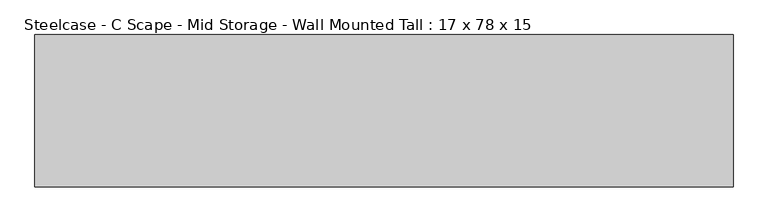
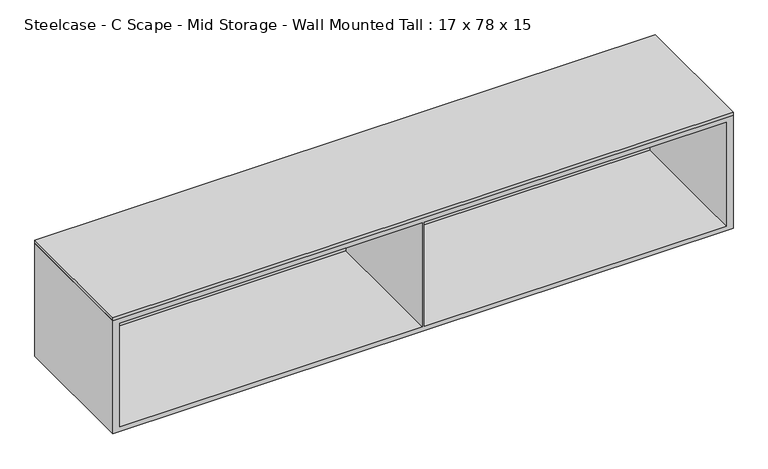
"""IFC4 building model written with IfcOpenShell, lengths in millimetres: furniture geometry, Steelcase - C Scape - Mid Storage - Wall Mounted Tall : 17 x 78 x 15."""

from ifc_helpers import new_model, si_unit, frame, origin, place, context, project, spatial, polyline, outline, extrude, faceted_brep, source, transform, mapped, element, save


def steelcase_c_scape_mid_storage_wall_mounted_tall_17_x_78_x_15_f820720b(model_context):
    return source(origin(), model_context, "Body", "SolidModel", [
        extrude(outline(polyline([(1981.2, 215.9), (1981.2, -215.9), (0.0, -215.9), (0.0, 215.9), (1981.2, 215.9)])), frame((0.0, 0.0, 1219.2), z_axis=(0.0, 0.0, 1.0), x_axis=(1.0, 0.0, 0.0)), (0.0, 0.0, 1.0), 10.16),
        faceted_brep([(0.0, -215.9, 1219.2), (0.0, -215.9, 838.2), (1981.2, -215.9, 838.2), (1981.2, -215.9, 1219.2), (21.9711633, -215.9, 1203.96), (987.425, -215.9, 1203.96), (987.425, -215.9, 853.4399855), (21.9711633, -215.9, 853.4399855), (1959.102, -215.9, 1203.96), (1959.102, -215.9, 853.4399855), (993.775, -215.9, 853.4399855), (993.775, -215.9, 1203.96), (1981.2, 215.9, 1219.2), (1981.2, 215.9, 838.2), (0.0, 215.9, 838.2), (0.0, 215.9, 1219.2), (1959.102, 206.3755809, 1203.96), (1959.102, 206.3755809, 853.4399855), (987.425, 206.3755809, 853.4399855), (21.9711633, 206.3755809, 853.4399855), (993.775, 206.3755809, 853.4399855), (21.9711633, 206.3755809, 1203.96), (987.425, 206.3755809, 1203.96), (993.775, 206.3755809, 1203.96)], [[[0, 1, 2, 3], [4, 5, 6, 7], [8, 9, 10, 11]], [[12, 13, 14, 15]], [[0, 3, 12, 15]], [[1, 0, 15, 14]], [[2, 1, 14, 13]], [[3, 2, 13, 12]], [[9, 8, 16, 17]], [[7, 6, 18, 19]], [[10, 9, 17, 20]], [[4, 7, 19, 21]], [[5, 4, 21, 22]], [[8, 11, 23, 16]], [[18, 22, 21, 19]], [[6, 5, 22, 18]], [[11, 10, 20, 23]], [[23, 20, 17, 16]]]),
    ])


if __name__ == "__main__":
    model = new_model("IFC4")
    model_context = context("Model", 3, world=origin())
    ifc_project = project(units=[si_unit("LENGTHUNIT", "METRE", prefix="MILLI")], contexts=[model_context])
    site = spatial("IfcSite", under=ifc_project)
    building = spatial("IfcBuilding", under=site)
    placement = place(None, origin())
    steelcase_c_scape_mid_storage_wall_mounted_tall_17_x_78_x_15_shape = steelcase_c_scape_mid_storage_wall_mounted_tall_17_x_78_x_15_f820720b(model_context)
    element("IfcFurniture", 1, ObjectType="Steelcase - C Scape - Mid Storage - Wall Mounted Tall : 17 x 78 x 15", at=placement, inside=building, context=model_context, shape_type="MappedRepresentation", body=[
        mapped(steelcase_c_scape_mid_storage_wall_mounted_tall_17_x_78_x_15_shape, transform((0.0, 0.0, 0.0), x_axis=(1.0, 0.0, 0.0), y_axis=(0.0, 1.0, 0.0), z_axis=(0.0, 0.0, 1.0))),
    ])
    save(model, "model.ifc")
